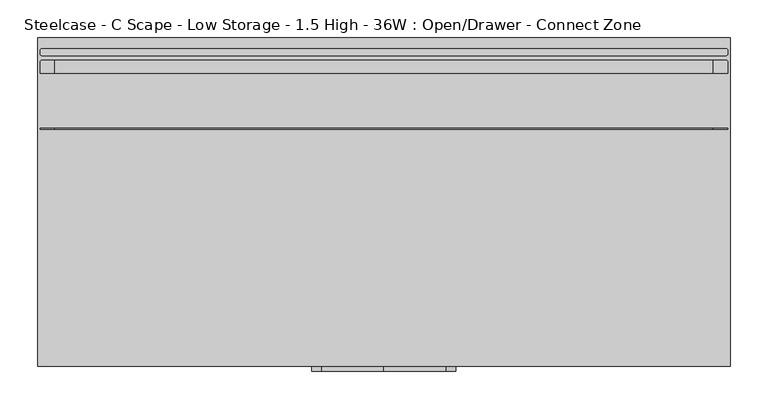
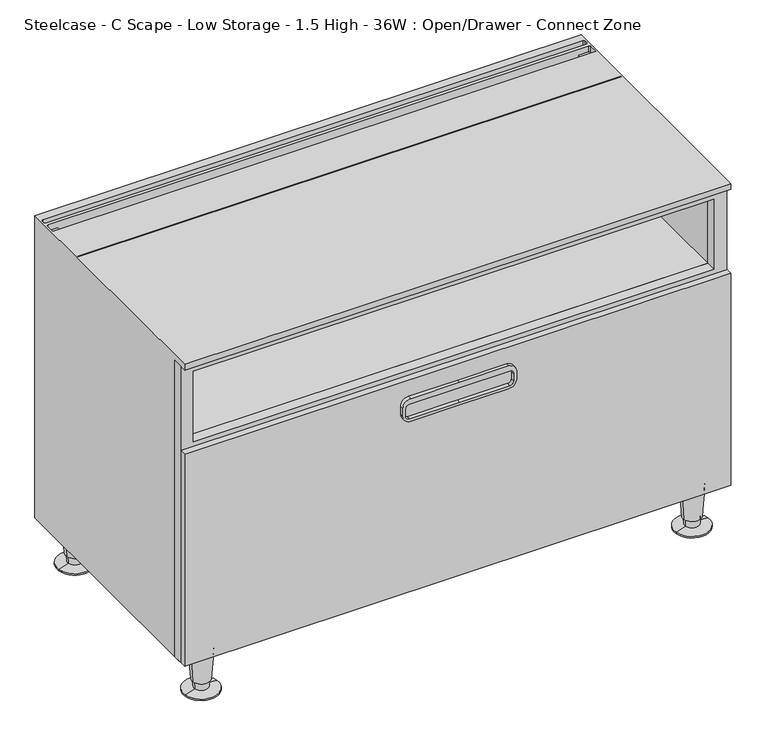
"""IFC4 building model written with IfcOpenShell, lengths in millimetres: furniture geometry, Steelcase - C Scape - Low Storage - 1.5 High - 36W : Open/Drawer - Connect Zone."""

from ifc_helpers import new_model, si_unit, point, frame, frame_2d, origin, place, context, project, spatial, polyline, circle_curve, trimmed, segment, composite_curve, outline, extrude, source, transform, mapped, element, save
from ifc_brep_helpers import plane_surface, cylinder_surface, revolved_surface, advanced_brep


def steelcase_c_scape_low_storage_1_5_high_36w_open_drawer_79894c2a(model_context):
    return source(origin(), model_context, "Body", "SolidModel", [
        extrude(outline(polyline([(76.2, 0.0), (76.2, 913.13), (599.44, 913.13), (599.44, 0.0), (76.2, 0.0)]), holes=[polyline([(458.7875121, 891.1617285), (458.7875121, 21.3382324), (582.93, 21.3382324), (582.93, 891.1617285), (458.7875121, 891.1617285)]), polyline([(92.7100024, 891.1617285), (92.7100024, 21.3382324), (436.8419, 21.3382324), (436.8419, 891.1617285), (92.7100024, 891.1617285)])]), frame((0.0, -421.6443408, 0.0), z_axis=(0.0, 1.0, 0.0), x_axis=(0.0, 0.0, 1.0)), (0.0, 0.0, 1.0), 17.2762904),
        extrude(outline(composite_curve([segment(trimmed(circle_curve(frame_2d((409.5749879, 374.0147442)), 12.7), [point((422.2749879, 374.0147442))], [point((409.5749879, 361.3147442))], False, "CARTESIAN"), True, "CONTINUOUS"), segment(polyline([(409.5749879, 361.3147442), (394.970017, 361.3147442)]), True, "CONTINUOUS"), segment(trimmed(circle_curve(frame_2d((394.970017, 374.0147442)), 12.7), [point((394.970017, 361.3147442))], [point((382.270017, 374.0147442))], False, "CARTESIAN"), True, "CONTINUOUS"), segment(polyline([(382.270017, 374.0147442), (382.270017, 456.2475), (382.270017, 538.4802558)]), True, "CONTINUOUS"), segment(trimmed(circle_curve(frame_2d((394.970017, 538.4802558)), 12.7), [point((382.270017, 538.4802558))], [point((394.970017, 551.1802558))], False, "CARTESIAN"), True, "CONTINUOUS"), segment(polyline([(394.970017, 551.1802558), (409.5749879, 551.1802558)]), True, "CONTINUOUS"), segment(trimmed(circle_curve(frame_2d((409.5749879, 538.4802558)), 12.7), [point((409.5749879, 551.1802558))], [point((422.2749879, 538.4802558))], False, "CARTESIAN"), True, "CONTINUOUS"), segment(polyline([(422.2749879, 538.4802558), (422.2749879, 456.2475), (422.2749879, 374.0147442)]), True, "CONTINUOUS")], self_intersect=False), holes=[composite_curve([segment(trimmed(circle_curve(frame_2d((406.1460063, 372.4923565)), 6.35), [point((406.1460063, 366.1423565))], [point((412.4960063, 372.4923565))], True, "CARTESIAN"), True, "CONTINUOUS"), segment(polyline([(412.4960063, 372.4923565), (412.4960063, 456.2475), (412.4960063, 540.0026435)]), True, "CONTINUOUS"), segment(trimmed(circle_curve(frame_2d((406.1460063, 540.0026435)), 6.35), [point((412.4960063, 540.0026435))], [point((406.1460063, 546.3526435))], True, "CARTESIAN"), True, "CONTINUOUS"), segment(polyline([(406.1460063, 546.3526435), (393.4459942, 546.3526435)]), True, "CONTINUOUS"), segment(trimmed(circle_curve(frame_2d((393.4459942, 540.0026435)), 6.35), [point((393.4459942, 546.3526435))], [point((387.0959942, 540.0026435))], True, "CARTESIAN"), True, "CONTINUOUS"), segment(polyline([(387.0959942, 540.0026435), (387.0959942, 456.2475), (387.0959942, 372.4923565)]), True, "CONTINUOUS"), segment(trimmed(circle_curve(frame_2d((393.4459942, 372.4923565)), 6.35), [point((387.0959942, 372.4923565))], [point((393.4459942, 366.1423565))], True, "CARTESIAN"), True, "CONTINUOUS"), segment(polyline([(393.4459942, 366.1423565), (406.1460063, 366.1423565)]), True, "CONTINUOUS")], self_intersect=False)]), frame((0.0, -439.42, 0.0), z_axis=(0.0, 1.0, 0.0), x_axis=(0.0, 0.0, 1.0)), (0.0, 0.0, 1.0), 6.35),
        advanced_brep(
        [(885.8598695, -31.5218435, 76.2), (848.1981305, -37.2840847, 76.2), (867.029, -34.4029641, 76.2), (881.9095214, -32.1262463, 19.05), (852.1484786, -36.6796819, 19.05), (879.4799345, -32.4979728, 19.05), (854.5780655, -36.3079555, 19.05), (878.791165, -32.6033544, 5.7545598), (855.266835, -36.2025738, 5.7545598), (896.1400485, -29.9489775, 2.5119506), (837.9179515, -38.8569507, 2.5119506), (896.1400485, -29.9489775, 0.0), (837.9179515, -38.8569507, 0.0), (867.029, -34.4029641, 0.0)],
        [
            (0, 1, circle_curve(frame((867.029, -34.4029641, 76.2), z_axis=(0.0, 0.0, 1.0), x_axis=(0.0, -1.0, 0.0)), 19.05)),
            (1, 2),
            (2, 0),
            (1, 0, circle_curve(frame((867.029, -34.4029641, 76.2), z_axis=(0.0, 0.0, 1.0), x_axis=(0.0, -1.0, 0.0)), 19.05)),
            (3, 4, circle_curve(frame((867.029, -34.4029641, 19.05), z_axis=(0.0, 0.0, 1.0), x_axis=(0.0, -1.0, 0.0)), 15.0536827)),
            (4, 1),
            (0, 3),
            (4, 3, circle_curve(frame((867.029, -34.4029641, 19.05), z_axis=(0.0, 0.0, 1.0), x_axis=(0.0, -1.0, 0.0)), 15.0536827)),
            (5, 6, circle_curve(frame((867.029, -34.4029641, 19.05), z_axis=(0.0, 0.0, 1.0), x_axis=(0.0, -1.0, 0.0)), 12.5958232)),
            (6, 4),
            (3, 5),
            (6, 5, circle_curve(frame((867.029, -34.4029641, 19.05), z_axis=(0.0, 0.0, 1.0), x_axis=(0.0, -1.0, 0.0)), 12.5958232)),
            (7, 8, circle_curve(frame((867.029, -34.4029641, 5.7545598), z_axis=(0.0, 0.0, 1.0), x_axis=(0.0, -1.0, 0.0)), 11.8990387)),
            (8, 6),
            (5, 7),
            (8, 7, circle_curve(frame((867.029, -34.4029641, 5.7545598), z_axis=(0.0, 0.0, 1.0), x_axis=(0.0, -1.0, 0.0)), 11.8990387)),
            (9, 10, circle_curve(frame((867.029, -34.4029641, 2.5119506), z_axis=(0.0, 0.0, 1.0), x_axis=(0.0, -1.0, 0.0)), 29.4498071)),
            (10, 8),
            (7, 9),
            (10, 9, circle_curve(frame((867.029, -34.4029641, 2.5119506), z_axis=(0.0, 0.0, 1.0), x_axis=(0.0, -1.0, 0.0)), 29.4498071)),
            (11, 12, circle_curve(frame((867.029, -34.4029641, 0.0), z_axis=(0.0, 0.0, 1.0), x_axis=(0.0, -1.0, 0.0)), 29.4498071)),
            (12, 10),
            (9, 11),
            (12, 11, circle_curve(frame((867.029, -34.4029641, 0.0), z_axis=(0.0, 0.0, 1.0), x_axis=(0.0, -1.0, 0.0)), 29.4498071)),
            (13, 12),
            (11, 13),
        ],
        [
            plane_surface(frame((867.029, -34.4029641, 76.2), z_axis=(0.0, 0.0, 1.0), x_axis=(0.0, -1.0, 0.0))),
            revolved_surface(polyline([(867.029, -53.4529641, 76.2), (867.029, -49.4566468, 19.05)]), (867.029, -34.4029641, 25.4), (0.0, 0.0, -1.0)),
            plane_surface(frame((867.029, -34.4029641, 19.05), z_axis=(0.0, 0.0, -1.0), x_axis=(0.0, -1.0, 0.0))),
            revolved_surface(polyline([(867.029, -46.9987873, 19.05), (867.029, -46.3020028, 5.7545598)]), (867.029, -34.4029641, 25.4), (0.0, 0.0, -1.0)),
            revolved_surface(polyline([(867.029, -46.3020028, 5.7545598), (867.029, -63.8527712, 2.5119506)]), (867.029, -34.4029641, 25.4), (0.0, 0.0, -1.0)),
            cylinder_surface(frame((867.029, -34.4029641, 25.4), z_axis=(0.0, 0.0, -1.0), x_axis=(0.0, -1.0, 0.0)), 29.4498071),
            plane_surface(frame((867.029, -34.4029641, 0.0), z_axis=(0.0, 0.0, -1.0), x_axis=(0.0, -1.0, 0.0))),
        ],
        [
            (0, [[1, 2, 3]]),
            (0, [[4, -3, -2]]),
            (1, [[5, 6, -1, 7]]),
            (1, [[8, -7, -4, -6]]),
            (2, [[9, 10, -5, 11]]),
            (2, [[12, -11, -8, -10]]),
            (3, [[13, 14, -9, 15]]),
            (3, [[16, -15, -12, -14]]),
            (4, [[17, 18, -13, 19]]),
            (4, [[20, -19, -16, -18]]),
            (5, [[21, 22, -17, 23]]),
            (5, [[24, -23, -20, -22]]),
            (6, [[25, -21, 26]]),
            (6, [[-26, -24, -25]]),
        ],
    ),
        advanced_brep(
        [(885.8598695, -397.1702762, 76.2), (848.1981305, -402.9325174, 76.2), (867.029, -400.0513968, 76.2), (881.9095214, -397.774679, 19.05), (852.1484786, -402.3281146, 19.05), (879.4799345, -398.1464055, 19.05), (854.5780655, -401.9563882, 19.05), (878.791165, -398.2517871, 5.7545598), (855.266835, -401.8510065, 5.7545598), (896.1400485, -395.5974102, 2.5119506), (837.9179515, -404.5053834, 2.5119506), (896.1400485, -395.5974102, 0.0), (837.9179515, -404.5053834, 0.0), (867.029, -400.0513968, 0.0)],
        [
            (0, 1, circle_curve(frame((867.029, -400.0513968, 76.2), z_axis=(0.0, 0.0, 1.0), x_axis=(0.0, -1.0, 0.0)), 19.05)),
            (1, 2),
            (2, 0),
            (1, 0, circle_curve(frame((867.029, -400.0513968, 76.2), z_axis=(0.0, 0.0, 1.0), x_axis=(0.0, -1.0, 0.0)), 19.05)),
            (3, 4, circle_curve(frame((867.029, -400.0513968, 19.05), z_axis=(0.0, 0.0, 1.0), x_axis=(0.0, -1.0, 0.0)), 15.0536827)),
            (4, 1),
            (0, 3),
            (4, 3, circle_curve(frame((867.029, -400.0513968, 19.05), z_axis=(0.0, 0.0, 1.0), x_axis=(0.0, -1.0, 0.0)), 15.0536827)),
            (5, 6, circle_curve(frame((867.029, -400.0513968, 19.05), z_axis=(0.0, 0.0, 1.0), x_axis=(0.0, -1.0, 0.0)), 12.5958232)),
            (6, 4),
            (3, 5),
            (6, 5, circle_curve(frame((867.029, -400.0513968, 19.05), z_axis=(0.0, 0.0, 1.0), x_axis=(0.0, -1.0, 0.0)), 12.5958232)),
            (7, 8, circle_curve(frame((867.029, -400.0513968, 5.7545598), z_axis=(0.0, 0.0, 1.0), x_axis=(0.0, -1.0, 0.0)), 11.8990387)),
            (8, 6),
            (5, 7),
            (8, 7, circle_curve(frame((867.029, -400.0513968, 5.7545598), z_axis=(0.0, 0.0, 1.0), x_axis=(0.0, -1.0, 0.0)), 11.8990387)),
            (9, 10, circle_curve(frame((867.029, -400.0513968, 2.5119506), z_axis=(0.0, 0.0, 1.0), x_axis=(0.0, -1.0, 0.0)), 29.4498071)),
            (10, 8),
            (7, 9),
            (10, 9, circle_curve(frame((867.029, -400.0513968, 2.5119506), z_axis=(0.0, 0.0, 1.0), x_axis=(0.0, -1.0, 0.0)), 29.4498071)),
            (11, 12, circle_curve(frame((867.029, -400.0513968, 0.0), z_axis=(0.0, 0.0, 1.0), x_axis=(0.0, -1.0, 0.0)), 29.4498071)),
            (12, 10),
            (9, 11),
            (12, 11, circle_curve(frame((867.029, -400.0513968, 0.0), z_axis=(0.0, 0.0, 1.0), x_axis=(0.0, -1.0, 0.0)), 29.4498071)),
            (13, 12),
            (11, 13),
        ],
        [
            plane_surface(frame((867.029, -400.0513968, 76.2), z_axis=(0.0, 0.0, 1.0), x_axis=(0.0, -1.0, 0.0))),
            revolved_surface(polyline([(867.029, -419.1013968, 76.2), (867.029, -415.1050795, 19.05)]), (867.029, -400.0513968, 25.4), (0.0, 0.0, -1.0)),
            plane_surface(frame((867.029, -400.0513968, 19.05), z_axis=(0.0, 0.0, -1.0), x_axis=(0.0, -1.0, 0.0))),
            revolved_surface(polyline([(867.029, -412.64722, 19.05), (867.029, -411.9504355, 5.7545598)]), (867.029, -400.0513968, 25.4), (0.0, 0.0, -1.0)),
            revolved_surface(polyline([(867.029, -411.9504355, 5.7545598), (867.029, -429.5012039, 2.5119506)]), (867.029, -400.0513968, 25.4), (0.0, 0.0, -1.0)),
            cylinder_surface(frame((867.029, -400.0513968, 25.4), z_axis=(0.0, 0.0, -1.0), x_axis=(0.0, -1.0, 0.0)), 29.4498071),
            plane_surface(frame((867.029, -400.0513968, 0.0), z_axis=(0.0, 0.0, -1.0), x_axis=(0.0, -1.0, 0.0))),
        ],
        [
            (0, [[1, 2, 3]]),
            (0, [[4, -3, -2]]),
            (1, [[5, 6, -1, 7]]),
            (1, [[8, -7, -4, -6]]),
            (2, [[9, 10, -5, 11]]),
            (2, [[12, -11, -8, -10]]),
            (3, [[13, 14, -9, 15]]),
            (3, [[16, -15, -12, -14]]),
            (4, [[17, 18, -13, 19]]),
            (4, [[20, -19, -16, -18]]),
            (5, [[21, 22, -17, 23]]),
            (5, [[24, -23, -20, -22]]),
            (6, [[25, -21, 26]]),
            (6, [[-26, -24, -25]]),
        ],
    ),
        advanced_brep(
        [(65.5422821, -397.1702762, 76.2), (27.8805432, -402.9325174, 76.2), (46.7114126, -400.0513968, 76.2), (61.5919341, -397.774679, 19.05), (31.8308912, -402.3281146, 19.05), (59.1623471, -398.1464055, 19.05), (34.2604781, -401.9563882, 19.05), (58.4735776, -398.2517871, 5.7545598), (34.9492476, -401.8510065, 5.7545598), (75.8224611, -395.5974102, 2.5119506), (17.6003641, -404.5053834, 2.5119506), (75.8224611, -395.5974102, 0.0), (17.6003641, -404.5053834, 0.0), (46.7114126, -400.0513968, 0.0)],
        [
            (0, 1, circle_curve(frame((46.7114126, -400.0513968, 76.2), z_axis=(0.0, 0.0, 1.0), x_axis=(0.0, -1.0, 0.0)), 19.05)),
            (1, 2),
            (2, 0),
            (1, 0, circle_curve(frame((46.7114126, -400.0513968, 76.2), z_axis=(0.0, 0.0, 1.0), x_axis=(0.0, -1.0, 0.0)), 19.05)),
            (3, 4, circle_curve(frame((46.7114126, -400.0513968, 19.05), z_axis=(0.0, 0.0, 1.0), x_axis=(0.0, -1.0, 0.0)), 15.0536827)),
            (4, 1),
            (0, 3),
            (4, 3, circle_curve(frame((46.7114126, -400.0513968, 19.05), z_axis=(0.0, 0.0, 1.0), x_axis=(0.0, -1.0, 0.0)), 15.0536827)),
            (5, 6, circle_curve(frame((46.7114126, -400.0513968, 19.05), z_axis=(0.0, 0.0, 1.0), x_axis=(0.0, -1.0, 0.0)), 12.5958232)),
            (6, 4),
            (3, 5),
            (6, 5, circle_curve(frame((46.7114126, -400.0513968, 19.05), z_axis=(0.0, 0.0, 1.0), x_axis=(0.0, -1.0, 0.0)), 12.5958232)),
            (7, 8, circle_curve(frame((46.7114126, -400.0513968, 5.7545598), z_axis=(0.0, 0.0, 1.0), x_axis=(0.0, -1.0, 0.0)), 11.8990387)),
            (8, 6),
            (5, 7),
            (8, 7, circle_curve(frame((46.7114126, -400.0513968, 5.7545598), z_axis=(0.0, 0.0, 1.0), x_axis=(0.0, -1.0, 0.0)), 11.8990387)),
            (9, 10, circle_curve(frame((46.7114126, -400.0513968, 2.5119506), z_axis=(0.0, 0.0, 1.0), x_axis=(0.0, -1.0, 0.0)), 29.4498071)),
            (10, 8),
            (7, 9),
            (10, 9, circle_curve(frame((46.7114126, -400.0513968, 2.5119506), z_axis=(0.0, 0.0, 1.0), x_axis=(0.0, -1.0, 0.0)), 29.4498071)),
            (11, 12, circle_curve(frame((46.7114126, -400.0513968, 0.0), z_axis=(0.0, 0.0, 1.0), x_axis=(0.0, -1.0, 0.0)), 29.4498071)),
            (12, 10),
            (9, 11),
            (12, 11, circle_curve(frame((46.7114126, -400.0513968, 0.0), z_axis=(0.0, 0.0, 1.0), x_axis=(0.0, -1.0, 0.0)), 29.4498071)),
            (13, 12),
            (11, 13),
        ],
        [
            plane_surface(frame((46.7114126, -400.0513968, 76.2), z_axis=(0.0, 0.0, 1.0), x_axis=(0.0, -1.0, 0.0))),
            revolved_surface(polyline([(46.7114126, -419.1013968, 76.2), (46.7114126, -415.1050795, 19.05)]), (46.7114126, -400.0513968, 25.4), (0.0, 0.0, -1.0)),
            plane_surface(frame((46.7114126, -400.0513968, 19.05), z_axis=(0.0, 0.0, -1.0), x_axis=(0.0, -1.0, 0.0))),
            revolved_surface(polyline([(46.7114126, -412.64722, 19.05), (46.7114126, -411.9504355, 5.7545598)]), (46.7114126, -400.0513968, 25.4), (0.0, 0.0, -1.0)),
            revolved_surface(polyline([(46.7114126, -411.9504355, 5.7545598), (46.7114126, -429.5012039, 2.5119506)]), (46.7114126, -400.0513968, 25.4), (0.0, 0.0, -1.0)),
            cylinder_surface(frame((46.7114126, -400.0513968, 25.4), z_axis=(0.0, 0.0, -1.0), x_axis=(0.0, -1.0, 0.0)), 29.4498071),
            plane_surface(frame((46.7114126, -400.0513968, 0.0), z_axis=(0.0, 0.0, -1.0), x_axis=(0.0, -1.0, 0.0))),
        ],
        [
            (0, [[1, 2, 3]]),
            (0, [[4, -3, -2]]),
            (1, [[5, 6, -1, 7]]),
            (1, [[8, -7, -4, -6]]),
            (2, [[9, 10, -5, 11]]),
            (2, [[12, -11, -8, -10]]),
            (3, [[13, 14, -9, 15]]),
            (3, [[16, -15, -12, -14]]),
            (4, [[17, 18, -13, 19]]),
            (4, [[20, -19, -16, -18]]),
            (5, [[21, 22, -17, 23]]),
            (5, [[24, -23, -20, -22]]),
            (6, [[25, -21, 26]]),
            (6, [[-26, -24, -25]]),
        ],
    ),
        advanced_brep(
        [(65.5422821, -31.5218435, 76.2), (27.8805432, -37.2840847, 76.2), (46.7114126, -34.4029641, 76.2), (61.5919341, -32.1262463, 19.05), (31.8308912, -36.6796819, 19.05), (59.1623471, -32.4979728, 19.05), (34.2604781, -36.3079555, 19.05), (58.4735776, -32.6033544, 5.7545598), (34.9492476, -36.2025738, 5.7545598), (75.8224611, -29.9489775, 2.5119506), (17.6003641, -38.8569507, 2.5119506), (75.8224611, -29.9489775, 0.0), (17.6003641, -38.8569507, 0.0), (46.7114126, -34.4029641, 0.0)],
        [
            (0, 1, circle_curve(frame((46.7114126, -34.4029641, 76.2), z_axis=(0.0, 0.0, 1.0), x_axis=(0.0, -1.0, 0.0)), 19.05)),
            (1, 2),
            (2, 0),
            (1, 0, circle_curve(frame((46.7114126, -34.4029641, 76.2), z_axis=(0.0, 0.0, 1.0), x_axis=(0.0, -1.0, 0.0)), 19.05)),
            (3, 4, circle_curve(frame((46.7114126, -34.4029641, 19.05), z_axis=(0.0, 0.0, 1.0), x_axis=(0.0, -1.0, 0.0)), 15.0536827)),
            (4, 1),
            (0, 3),
            (4, 3, circle_curve(frame((46.7114126, -34.4029641, 19.05), z_axis=(0.0, 0.0, 1.0), x_axis=(0.0, -1.0, 0.0)), 15.0536827)),
            (5, 6, circle_curve(frame((46.7114126, -34.4029641, 19.05), z_axis=(0.0, 0.0, 1.0), x_axis=(0.0, -1.0, 0.0)), 12.5958232)),
            (6, 4),
            (3, 5),
            (6, 5, circle_curve(frame((46.7114126, -34.4029641, 19.05), z_axis=(0.0, 0.0, 1.0), x_axis=(0.0, -1.0, 0.0)), 12.5958232)),
            (7, 8, circle_curve(frame((46.7114126, -34.4029641, 5.7545598), z_axis=(0.0, 0.0, 1.0), x_axis=(0.0, -1.0, 0.0)), 11.8990387)),
            (8, 6),
            (5, 7),
            (8, 7, circle_curve(frame((46.7114126, -34.4029641, 5.7545598), z_axis=(0.0, 0.0, 1.0), x_axis=(0.0, -1.0, 0.0)), 11.8990387)),
            (9, 10, circle_curve(frame((46.7114126, -34.4029641, 2.5119506), z_axis=(0.0, 0.0, 1.0), x_axis=(0.0, -1.0, 0.0)), 29.4498071)),
            (10, 8),
            (7, 9),
            (10, 9, circle_curve(frame((46.7114126, -34.4029641, 2.5119506), z_axis=(0.0, 0.0, 1.0), x_axis=(0.0, -1.0, 0.0)), 29.4498071)),
            (11, 12, circle_curve(frame((46.7114126, -34.4029641, 0.0), z_axis=(0.0, 0.0, 1.0), x_axis=(0.0, -1.0, 0.0)), 29.4498071)),
            (12, 10),
            (9, 11),
            (12, 11, circle_curve(frame((46.7114126, -34.4029641, 0.0), z_axis=(0.0, 0.0, 1.0), x_axis=(0.0, -1.0, 0.0)), 29.4498071)),
            (13, 12),
            (11, 13),
        ],
        [
            plane_surface(frame((46.7114126, -34.4029641, 76.2), z_axis=(0.0, 0.0, 1.0), x_axis=(0.0, -1.0, 0.0))),
            revolved_surface(polyline([(46.7114126, -53.4529641, 76.2), (46.7114126, -49.4566468, 19.05)]), (46.7114126, -34.4029641, 25.4), (0.0, 0.0, -1.0)),
            plane_surface(frame((46.7114126, -34.4029641, 19.05), z_axis=(0.0, 0.0, -1.0), x_axis=(0.0, -1.0, 0.0))),
            revolved_surface(polyline([(46.7114126, -46.9987873, 19.05), (46.7114126, -46.3020028, 5.7545598)]), (46.7114126, -34.4029641, 25.4), (0.0, 0.0, -1.0)),
            revolved_surface(polyline([(46.7114126, -46.3020028, 5.7545598), (46.7114126, -63.8527712, 2.5119506)]), (46.7114126, -34.4029641, 25.4), (0.0, 0.0, -1.0)),
            cylinder_surface(frame((46.7114126, -34.4029641, 25.4), z_axis=(0.0, 0.0, -1.0), x_axis=(0.0, -1.0, 0.0)), 29.4498071),
            plane_surface(frame((46.7114126, -34.4029641, 0.0), z_axis=(0.0, 0.0, -1.0), x_axis=(0.0, -1.0, 0.0))),
        ],
        [
            (0, [[1, 2, 3]]),
            (0, [[4, -3, -2]]),
            (1, [[5, 6, -1, 7]]),
            (1, [[8, -7, -4, -6]]),
            (2, [[9, 10, -5, 11]]),
            (2, [[12, -11, -8, -10]]),
            (3, [[13, 14, -9, 15]]),
            (3, [[16, -15, -12, -14]]),
            (4, [[17, 18, -13, 19]]),
            (4, [[20, -19, -16, -18]]),
            (5, [[21, 22, -17, 23]]),
            (5, [[24, -23, -20, -22]]),
            (6, [[25, -21, 26]]),
            (6, [[-26, -24, -25]]),
        ],
    ),
        advanced_brep(
        [(910.3272317, -120.6444193, 609.6), (910.3272317, -119.3775195, 609.6), (910.3272317, -119.3775195, 599.44), (910.3272317, -120.6444193, 599.44), (910.3272317, -46.4703418, 609.6), (910.3272317, -32.274699, 609.6), (910.3272317, -32.274699, 599.44), (910.3272317, -46.4703418, 599.44), (910.3272317, -20.3138654, 609.6), (910.3272317, -17.0388453, 609.6), (910.3272317, -17.0388453, 599.44), (910.3272317, -20.3138654, 599.44), (913.13, 0.0055807, 609.6), (913.13, -433.07, 609.6), (913.13, -433.07, 599.44), (913.13, -404.3680504, 599.44), (913.13, -404.3680504, 76.2), (913.13, 0.0, 76.2), (0.0, -433.07, 609.6), (-0.012551, 0.0055807, 609.6), (907.6308823, -29.5783496, 609.6), (2.7826272, -46.4703418, 609.6), (2.7826272, -32.0458511, 609.6), (5.2501287, -29.5783496, 609.6), (907.3507358, -23.2903613, 609.6), (5.5670648, -23.2903613, 609.6), (2.7826272, -20.5059237, 609.6), (2.7826272, -17.0388453, 609.6), (5.4794022, -14.3420703, 609.6), (907.6304567, -14.3420703, 609.6), (2.7826272, -119.3775195, 609.6), (2.7826272, -120.6444193, 609.6), (0.0, 0.0055807, 76.2), (571.8775189, 0.0055807, 466.2677968), (340.6174811, 0.0055807, 466.2677968), (340.6174811, 0.0055807, 432.6382043), (456.2475, 0.0055807, 432.6382043), (571.8775189, 0.0055807, 432.6382043), (571.8775189, -9.5194193, 466.2677968), (340.6174811, -9.5194193, 466.2677968), (571.8775189, -9.5194193, 450.8499879), (340.6174811, -9.5194193, 450.8499879), (5.2501287, -29.5783496, 599.44), (21.3256814, -29.5783496, 599.44), (21.3256814, -29.5783496, 458.7875121), (891.1617285, -29.5783496, 458.7875121), (891.1617285, -29.5783496, 599.44), (907.6308823, -29.5783496, 599.44), (891.1617285, -119.3775195, 599.44), (21.3256814, -119.3775195, 599.44), (21.3256814, -46.4703418, 599.44), (891.1617285, -46.4703418, 599.44), (907.3507358, -23.2903613, 599.44), (5.5670648, -23.2903613, 599.44), (2.7826272, -20.5059237, 599.44), (2.7826272, -32.0458511, 599.44), (2.7826272, -46.4703418, 599.44), (2.7826272, -119.3775195, 599.44), (5.4794022, -14.3420703, 599.44), (907.6304567, -14.3420703, 599.44), (2.7826272, -17.0388453, 599.44), (21.3256814, -120.6444193, 599.44), (2.7826272, -120.6444193, 599.44), (891.1617285, -120.6444193, 599.44), (21.3256814, -404.3680504, 92.7100024), (891.1617285, -404.3680504, 92.7100024), (891.1617285, -9.5194193, 92.7100024), (21.3256814, -9.5194193, 92.7100024), (0.0, -404.3680504, 76.2), (0.0, -404.3680504, 599.44), (0.0, -433.07, 599.44), (891.1617285, -404.3680504, 599.44), (891.1617285, -404.3680504, 458.7875121), (21.3256814, -404.3680504, 458.7875121), (21.3256814, -404.3680504, 599.44), (21.3256814, -404.3680504, 450.8499879), (891.1617285, -404.3680504, 450.8499879), (21.3256814, -126.9863574, 599.44), (891.1617285, -126.9863574, 599.44), (21.3256814, -126.9863574, 458.7875121), (891.1617285, -126.9863574, 458.7875121), (891.1617285, -120.6444193, 458.7875121), (21.3256814, -120.6444193, 458.7875121), (21.3256814, -9.5194193, 450.8499879), (891.1617285, -9.5194193, 450.8499879), (571.8775189, -9.5194193, 432.6382043), (456.2475, -9.5194193, 432.6382043), (340.6174811, -9.5194193, 432.6382043)],
        [
            (0, 1),
            (1, 2),
            (2, 3),
            (3, 0),
            (4, 5),
            (5, 6),
            (6, 7),
            (7, 4),
            (8, 9),
            (9, 10),
            (10, 11),
            (11, 8),
            (12, 13),
            (13, 14),
            (14, 15),
            (15, 16),
            (16, 17),
            (17, 12),
            (18, 13),
            (12, 19),
            (19, 18),
            (20, 5, circle_curve(frame((907.6308823, -32.274699, 609.6), z_axis=(0.0, 0.0, -1.0), x_axis=(1.0, 0.0, 0.0)), 2.6963494)),
            (4, 21),
            (21, 22),
            (22, 23, circle_curve(frame((5.2501287, -32.0458511, 609.6), z_axis=(0.0, 0.0, -1.0), x_axis=(1.0, 0.0, 0.0)), 2.4675015)),
            (23, 20),
            (8, 24, circle_curve(frame((907.3507358, -20.3138654, 609.6), z_axis=(0.0, 0.0, -1.0), x_axis=(1.0, 0.0, 0.0)), 2.9764959)),
            (24, 25),
            (25, 26, circle_curve(frame((5.5670648, -20.5059237, 609.6), z_axis=(0.0, 0.0, -1.0), x_axis=(1.0, 0.0, 0.0)), 2.7844376)),
            (26, 27),
            (27, 28, circle_curve(frame((5.4794022, -17.0388453, 609.6), z_axis=(0.0, 0.0, -1.0), x_axis=(1.0, 0.0, 0.0)), 2.696775)),
            (28, 29),
            (29, 9, circle_curve(frame((907.6304567, -17.0388453, 609.6), z_axis=(0.0, 0.0, -1.0), x_axis=(1.0, 0.0, 0.0)), 2.696775)),
            (30, 1),
            (0, 31),
            (31, 30),
            (17, 32),
            (32, 19),
            (33, 34),
            (34, 35),
            (35, 36),
            (36, 37),
            (37, 33),
            (33, 38),
            (38, 39),
            (39, 34),
            (38, 40),
            (40, 41),
            (41, 39),
            (23, 42),
            (42, 43),
            (43, 44),
            (44, 45),
            (45, 46),
            (46, 47),
            (47, 20),
            (48, 49),
            (49, 50),
            (50, 51),
            (51, 48),
            (47, 6, circle_curve(frame((907.6308823, -32.274699, 599.44), z_axis=(0.0, 0.0, -1.0), x_axis=(1.0, 0.0, 0.0)), 2.6963494)),
            (11, 52, circle_curve(frame((907.3507358, -20.3138654, 599.44), z_axis=(0.0, 0.0, -1.0), x_axis=(1.0, 0.0, 0.0)), 2.9764959)),
            (52, 24),
            (52, 53),
            (53, 25),
            (53, 54, circle_curve(frame((5.5670648, -20.5059237, 599.44), z_axis=(0.0, 0.0, -1.0), x_axis=(1.0, 0.0, 0.0)), 2.7844376)),
            (54, 26),
            (22, 55),
            (55, 42, circle_curve(frame((5.2501287, -32.0458511, 599.44), z_axis=(0.0, 0.0, -1.0), x_axis=(1.0, 0.0, 0.0)), 2.4675015)),
            (7, 51),
            (50, 56),
            (56, 21),
            (30, 57),
            (57, 49),
            (48, 2),
            (28, 58),
            (58, 59),
            (59, 29),
            (59, 10, circle_curve(frame((907.6304567, -17.0388453, 599.44), z_axis=(0.0, 0.0, -1.0), x_axis=(1.0, 0.0, 0.0)), 2.696775)),
            (27, 60),
            (60, 58, circle_curve(frame((5.4794022, -17.0388453, 599.44), z_axis=(0.0, 0.0, -1.0), x_axis=(1.0, 0.0, 0.0)), 2.696775)),
            (61, 49),
            (57, 62),
            (62, 61),
            (48, 63),
            (63, 3),
            (60, 54),
            (50, 43),
            (55, 56),
            (46, 51),
            (64, 65),
            (65, 66),
            (66, 67),
            (67, 64),
            (16, 68),
            (68, 32),
            (68, 69),
            (69, 70),
            (70, 18),
            (15, 71),
            (71, 72),
            (72, 73),
            (73, 74),
            (74, 69),
            (64, 75),
            (75, 76),
            (76, 65),
            (70, 14),
            (74, 77),
            (77, 78),
            (78, 71),
            (77, 79),
            (79, 80),
            (80, 78),
            (63, 81),
            (81, 82),
            (82, 61),
            (62, 31),
            (44, 82),
            (81, 45),
            (79, 73),
            (72, 80),
            (75, 83),
            (83, 41),
            (40, 84),
            (84, 76),
            (67, 83),
            (84, 66),
            (85, 86),
            (86, 87),
            (87, 41),
            (40, 85),
            (37, 85),
            (36, 86),
            (35, 87),
        ],
        [
            plane_surface(frame((910.3272317, -120.6444193, 609.6), z_axis=(-1.0, 0.0, 0.0), x_axis=(0.0, 0.0, 1.0))),
            plane_surface(frame((913.13, -120.6444193, 609.6), z_axis=(1.0, 0.0, 0.0), x_axis=(0.0, 0.0, -1.0))),
            plane_surface(frame((910.3272317, -120.6444193, 609.6), z_axis=(0.0, 0.0, 1.0), x_axis=(1.0, 0.0, 0.0))),
            plane_surface(frame((910.3272317, 0.0055807, 609.6), z_axis=(0.0, 1.0, 0.0), x_axis=(1.0, 0.0, 0.0))),
            plane_surface(frame((910.3272317, 0.0055807, 466.2677968), z_axis=(0.0, 0.0, -1.0), x_axis=(1.0, 0.0, 0.0))),
            plane_surface(frame((910.3272317, -9.5194193, 466.2677968), z_axis=(0.0, 1.0, 0.0), x_axis=(1.0, 0.0, 0.0))),
            plane_surface(frame((910.3272317, -29.5783496, 458.7875121), z_axis=(0.0, -1.0, 0.0), x_axis=(1.0, 0.0, 0.0))),
            plane_surface(frame((910.3272317, -29.5783496, 599.44), z_axis=(0.0, 0.0, -1.0), x_axis=(1.0, 0.0, 0.0))),
            revolved_surface(polyline([(910.3272317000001, -32.274699, 599.44), (910.3272317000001, -32.274699, 609.6)]), (907.6308823, -32.274699, 599.44), (0.0, 0.0, -1.0)),
            revolved_surface(polyline([(910.3272317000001, -20.3138654, 599.44), (910.3272317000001, -20.3138654, 609.6)]), (907.3507358, -20.3138654, 599.44), (0.0, 0.0, -1.0)),
            plane_surface(frame((907.3507358, -23.2903613, 609.6), z_axis=(0.0, 1.0, 0.0), x_axis=(0.0, 0.0, -1.0))),
            revolved_surface(polyline([(8.3515024, -20.5059237, 599.44), (8.3515024, -20.5059237, 609.6)]), (5.5670648, -20.5059237, 599.44), (0.0, 0.0, -1.0)),
            revolved_surface(polyline([(7.7176302, -32.0458511, 599.44), (7.7176302, -32.0458511, 609.6)]), (5.2501287, -32.0458511, 599.44), (0.0, 0.0, -1.0)),
            plane_surface(frame((910.3272317, -46.4703418, 609.6), z_axis=(0.0, 1.0, 0.0), x_axis=(0.0, 0.0, -1.0))),
            plane_surface(frame((2.7826272, -119.3775195, 609.6), z_axis=(0.0, -1.0, 0.0), x_axis=(0.0, 0.0, -1.0))),
            plane_surface(frame((5.4794022, -14.3420703, 609.6), z_axis=(0.0, -1.0, 0.0), x_axis=(0.0, 0.0, -1.0))),
            revolved_surface(polyline([(910.3272317, -17.0388453, 599.44), (910.3272317, -17.0388453, 609.6)]), (907.6304567, -17.0388453, 41.6295811), (0.0, 0.0, -1.0)),
            revolved_surface(polyline([(8.1761772, -17.0388453, 599.44), (8.1761772, -17.0388453, 609.6)]), (5.4794022, -17.0388453, 41.6295811), (0.0, 0.0, -1.0)),
            plane_surface(frame((910.3272317, 0.0055807, 599.44), z_axis=(0.0, 0.0, 1.0), x_axis=(-1.0, 0.0, 0.0))),
            plane_surface(frame((0.0, 0.0, 92.7100024), z_axis=(0.0, 0.0, 1.0), x_axis=(-1.0, 0.0, 0.0))),
            plane_surface(frame((0.0, 0.0, 76.2), z_axis=(0.0, 0.0, -1.0), x_axis=(1.0, 0.0, 0.0))),
            plane_surface(frame((0.0, 0.0, 92.7100024), z_axis=(-1.0, 0.0, 0.0), x_axis=(0.0, 0.0, -1.0))),
            plane_surface(frame((0.0, -404.3680504, 92.7100024), z_axis=(0.0, -1.0, 0.0), x_axis=(0.0, 0.0, -1.0))),
            plane_surface(frame((913.13, -433.07, 609.6), z_axis=(0.0, -1.0, 0.0), x_axis=(-1.0, 0.0, 0.0))),
            plane_surface(frame((913.13, -433.07, 599.44), z_axis=(0.0, 0.0, -1.0), x_axis=(-1.0, 0.0, 0.0))),
            plane_surface(frame((913.13, -126.9863574, 599.44), z_axis=(0.0, -1.0, 0.0), x_axis=(-1.0, 0.0, 0.0))),
            plane_surface(frame((913.13, -120.6444193, 457.1999955), z_axis=(0.0, 1.0, 0.0), x_axis=(-1.0, 0.0, 0.0))),
            plane_surface(frame((0.0, -9.5194193, 458.7875121), z_axis=(0.0, 0.0, 1.0), x_axis=(-1.0, 0.0, 0.0))),
            plane_surface(frame((0.0, -9.5194193, 450.8499879), z_axis=(0.0, 0.0, -1.0), x_axis=(1.0, 0.0, 0.0))),
            plane_surface(frame((21.3256814, -404.3680504, 599.44), z_axis=(1.0, 0.0, 0.0), x_axis=(0.0, 0.0, -1.0))),
            plane_surface(frame((891.1617285, -9.5194193, 599.44), z_axis=(-1.0, 0.0, 0.0), x_axis=(0.0, 0.0, -1.0))),
            plane_surface(frame((2.7826272, -120.6444193, 599.44), z_axis=(1.0, 0.0, 0.0), x_axis=(0.0, 1.0, 0.0))),
            plane_surface(frame((571.8775189, -9.5194193, 459.9177968), z_axis=(0.0, -1.0, 0.0), x_axis=(0.0, 0.0, -1.0))),
            plane_surface(frame((571.8775189, -9.5194193, 466.2677968), z_axis=(-1.0, 0.0, 0.0), x_axis=(0.0, 1.0, 0.0))),
            plane_surface(frame((571.8775189, -9.5194193, 432.6382043), z_axis=(0.0, 0.0, 1.0), x_axis=(0.0, 1.0, 0.0))),
            plane_surface(frame((456.2475, -9.5194193, 432.6382043), z_axis=(0.0, 0.0, 1.0), x_axis=(0.0, 1.0, 0.0))),
            plane_surface(frame((340.6174811, -9.5194193, 432.6382043), z_axis=(1.0, 0.0, 0.0), x_axis=(0.0, 1.0, 0.0))),
        ],
        [
            (0, [[1, 2, 3, 4]]),
            (0, [[5, 6, 7, 8]]),
            (0, [[9, 10, 11, 12]]),
            (1, [[13, 14, 15, 16, 17, 18]]),
            (2, [[19, -13, 20, 21], [22, -5, 23, 24, 25, 26], [27, 28, 29, 30, 31, 32, 33, -9], [34, -1, 35, 36]]),
            (3, [[-18, 37, 38, -20], [39, 40, 41, 42, 43]]),
            (4, [[-39, 44, 45, 46]]),
            (5, [[-45, 47, 48, 49]]),
            (6, [[-26, 50, 51, 52, 53, 54, 55, 56]]),
            (7, [[57, 58, 59, 60]]),
            (8, [[-22, -56, 61, -6]]),
            (9, [[-27, -12, 62, 63]]),
            (10, [[-28, -63, 64, 65]]),
            (11, [[-29, -65, 66, 67]]),
            (12, [[-25, 68, 69, -50]]),
            (13, [[-23, -8, 70, -59, 71, 72]]),
            (14, [[-34, 73, 74, -57, 75, -2]]),
            (15, [[-32, 76, 77, 78]]),
            (16, [[-33, -78, 79, -10]]),
            (17, [[-31, 80, 81, -76]]),
            (18, [[82, -74, 83, 84]]),
            (18, [[85, 86, -3, -75]]),
            (18, [[-11, -79, -77, -81, 87, -66, -64, -62]]),
            (18, [[88, -51, -69, 89, -71]]),
            (18, [[90, -70, -7, -61, -55]]),
            (19, [[91, 92, 93, 94]]),
            (20, [[-17, 95, 96, -37]]),
            (21, [[-38, -96, 97, 98, 99, -21]]),
            (22, [[-95, -16, 100, 101, 102, 103, 104, -97], [-91, 105, 106, 107]]),
            (23, [[-14, -19, -99, 108]]),
            (24, [[-108, -98, -104, 109, 110, 111, -100, -15]]),
            (25, [[-110, 112, 113, 114]]),
            (26, [[-4, -86, 115, 116, 117, -84, 118, -35]]),
            (27, [[-53, 119, -116, 120]]),
            (27, [[-113, 121, -102, 122]]),
            (28, [[-106, 123, 124, -48, 125, 126]]),
            (29, [[-103, -121, -112, -109]]),
            (29, [[-105, -94, 127, -123]]),
            (29, [[-88, -58, -82, -117, -119, -52]]),
            (30, [[-101, -111, -114, -122]]),
            (30, [[-107, -126, 128, -92]]),
            (30, [[-90, -54, -120, -115, -85, -60]]),
            (31, [[-24, -72, -89, -68]]),
            (31, [[-30, -67, -87, -80]]),
            (31, [[-36, -118, -83, -73]]),
            (32, [[129, 130, 131, -124, -127, -93, -128, -125, 132]]),
            (33, [[-43, 133, -132, -47, -44]]),
            (34, [[-129, -133, -42, 134]]),
            (35, [[-130, -134, -41, 135]]),
            (36, [[-40, -46, -49, -131, -135]]),
        ],
    ),
        extrude(outline(polyline([(913.13, -404.3680504), (913.13, -433.07), (0.0, -433.07), (0.0, -404.3680504), (913.13, -404.3680504)])), frame((0.0, 0.0, 76.2), z_axis=(0.0, 0.0, 1.0), x_axis=(1.0, 0.0, 0.0)), (0.0, 0.0, 1.0), 374.6499879),
    ])


if __name__ == "__main__":
    model = new_model("IFC4")
    model_context = context("Model", 3, world=origin())
    ifc_project = project(units=[si_unit("LENGTHUNIT", "METRE", prefix="MILLI")], contexts=[model_context])
    site = spatial("IfcSite", under=ifc_project)
    building = spatial("IfcBuilding", under=site)
    placement = place(None, origin())
    steelcase_c_scape_low_storage_1_5_high_36w_open_drawer_shape = steelcase_c_scape_low_storage_1_5_high_36w_open_drawer_79894c2a(model_context)
    element("IfcFurniture", 1, ObjectType="Steelcase - C Scape - Low Storage - 1.5 High - 36W : Open/Drawer - Connect Zone", at=placement, inside=building, context=model_context, shape_type="MappedRepresentation", body=[
        mapped(steelcase_c_scape_low_storage_1_5_high_36w_open_drawer_shape, transform((0.0, 0.0, 0.0), x_axis=(1.0, 0.0, 0.0), y_axis=(0.0, 1.0, 0.0), z_axis=(0.0, 0.0, 1.0))),
    ])
    save(model, "model.ifc")
